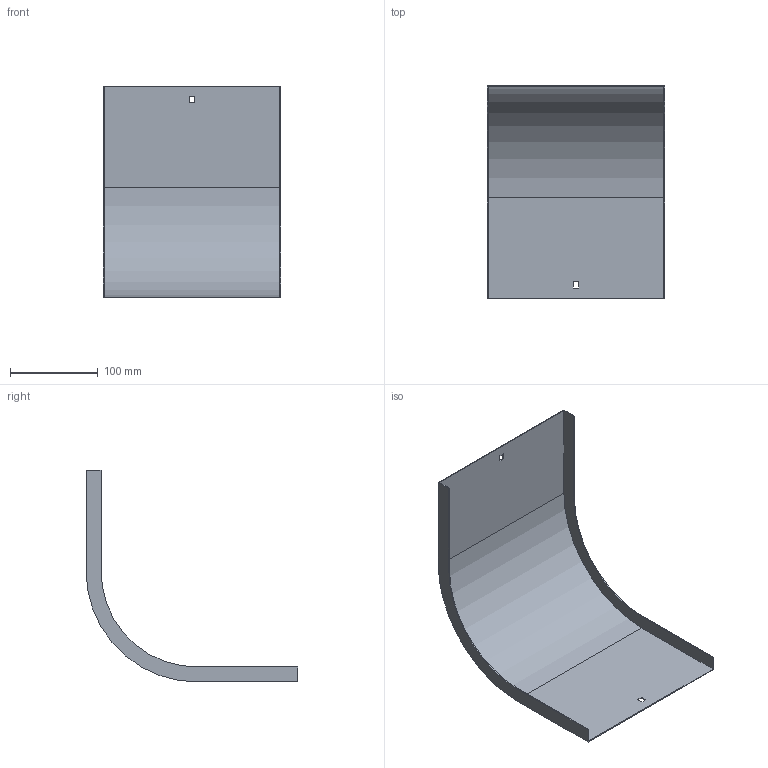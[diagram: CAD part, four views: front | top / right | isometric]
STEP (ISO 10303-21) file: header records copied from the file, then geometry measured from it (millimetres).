
FILE_DESCRIPTION (( 'STEP AP214' ), '1' );
FILE_NAME ('OD9_207.step', '2025-07-16T09:13:09', ( '' ), ( '' ), 'SwSTEP 2.0', 'SolidWorks 2023', '' );
FILE_SCHEMA (( 'AUTOMOTIVE_DESIGN' ));
Length unit declared in the file: millimetre
Products named in the file (1): OD9_207
Bounding box: 202 x 241 x 241 mm (x, y, z)
Volume: 99438.3 mm3; surface area: 200200.6 mm2
Topology: 1 solids, 1 shells, 26 faces, 72 edges, 48 vertices
Faces by surface type: plane 22, cylinder 4
Entity records: 855 total; most frequent: CARTESIAN_POINT 147, ORIENTED_EDGE 144, DIRECTION 134, EDGE_CURVE 72, VECTOR 64, LINE 64, VERTEX_POINT 48, AXIS2_PLACEMENT_3D 35
